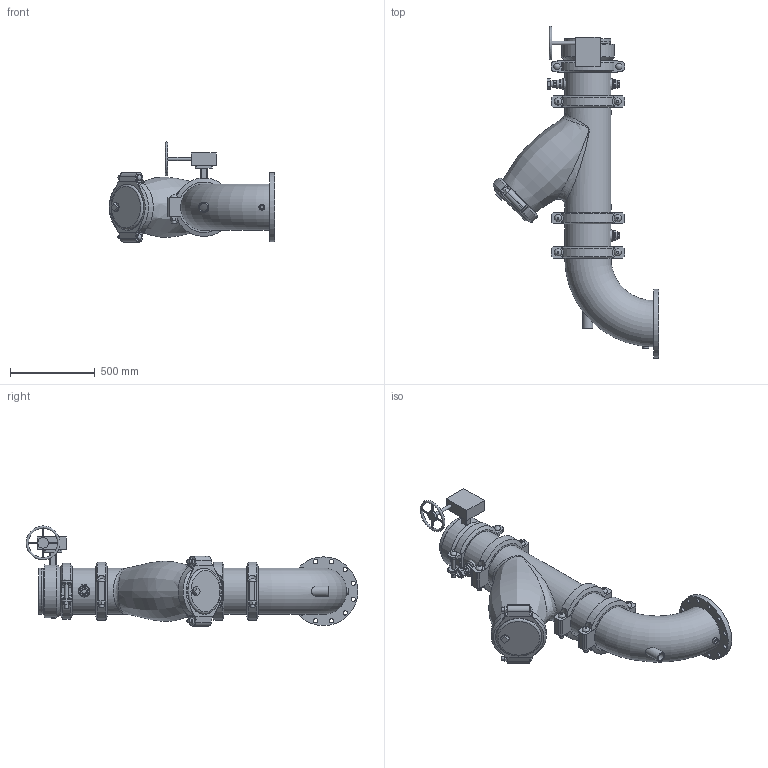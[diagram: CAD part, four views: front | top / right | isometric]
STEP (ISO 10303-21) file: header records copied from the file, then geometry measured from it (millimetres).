
FILE_DESCRIPTION(/* description */ ('VIC SVI PUMP DROP HORZ S/382 (OGSxFLG) (S/924-1.25)','CAx-IF Rec.Pracs.---Representation and Presentation of Product Manufacturing Information (PMI)---4.0---2014-10-13'),/* implementation_level */ '2;1');
FILE_NAME(/* name */ 'C:\Users\Vjadhav\AppData\Roaming\Autodesk\ApplicationPlugins\Victaulic.Temp\A562\Victaulic_IPS_Horizontal SVI_CL 150_Series 382 (OGSxFLG)_924 (1.25)_10.0x10.0 (250x250).stp',/* time_stamp */ '2022-02-28T20:00:47+06:00',/* author */ ('kkamble'),/* organization */ ('Victaulic'),/* preprocessor_version */ 'ST-DEVELOPER v17.2',/* originating_system */ 'Autodesk Inventor 2019',/* authorisation */ '');
FILE_SCHEMA (('AP242_MANAGED_MODEL_BASED_3D_ENGINEERING_MIM_LF { 1 0 10303 442 1 1 4 }'));
Length unit declared in the file: inch
Products named in the file (13): 382_924 (1.25)-10.0x10.0; PIPE-10.0; 107N-10.0; 732-10.0; 732-10.0_1; 07-10.0; 732-10.0_2; 077-10.0; PIPE-10.3; 761-10.0; 924-10.0x01.25; 923-10.0x0.75; 100F-10.0
Assembly tree (15 placements, depth 3):
  382_924 (1.25)-10.0x10.0
    PIPE-10.0
    107N-10.0
    732-10.0
      732-10.0_1
      07-10.0
      732-10.0_2
    077-10.0  x3
    PIPE-10.3
    761-10.0
    924-10.0x01.25
    923-10.0x0.75  x2
    100F-10.0
Bounding box: 977.89 x 1961.18 x 591.16 mm (x, y, z)
Volume: 38912911.8 mm3; surface area: 6035385.1 mm2
Topology: 14 solids, 24 shells, 762 faces, 1901 edges, 1283 vertices
Faces by surface type: plane 427, cylinder 260, bspline 32, cone 27, torus 12, sphere 4
Full cylindrical faces by diameter (mm): 10.922 x4, 12.7 x1, 20.066 x1, 20.93 x1, 21.336 x3, 22.225 x8, 22.86 x1, 25.4 x24, 26.67 x5, 27.432 x6, 34.29 x1, 37.694 x4, 38.608 x1, 42.164 x1, 45.974 x6, 48.26 x1, 48.514 x1, 50.8 x1, 55.626 x3, 60.96 x1, 63.079 x1, 70.104 x1, 76.2 x2, 241.3 x1, 254.508 x6, 254.762 x1, 260.35 x2, 264.16 x3, 268.275 x11, 273.05 x26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
Entity records: 23855 total; most frequent: CARTESIAN_POINT 8212, DIRECTION 3159, ORIENTED_EDGE 2930, EDGE_CURVE 1465, AXIS2_PLACEMENT_3D 1213, VERTEX_POINT 992, LINE 733, VECTOR 733
